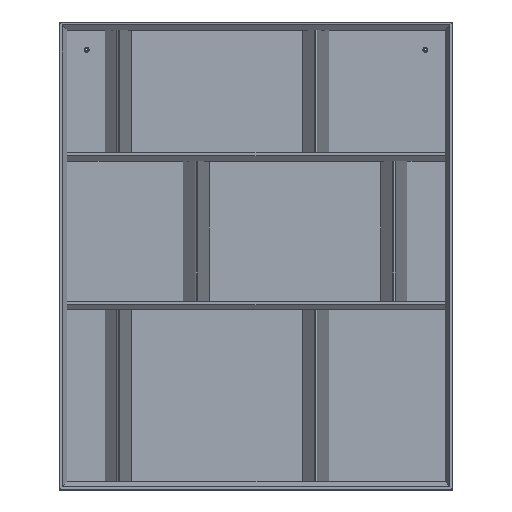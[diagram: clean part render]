
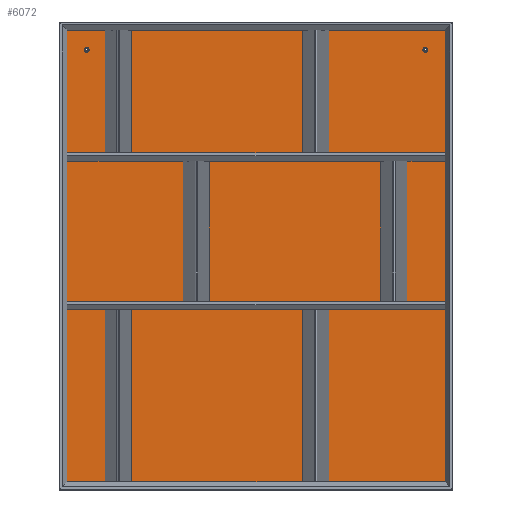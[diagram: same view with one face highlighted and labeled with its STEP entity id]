
A CAD part, top view. The second image highlights one B-rep face of the part: STEP entity #6072.
In plain terms, the highlighted planar face has unit normal (0, 0, 1).
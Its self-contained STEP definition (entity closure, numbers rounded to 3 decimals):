
#212 = CARTESIAN_POINT ( 'NONE',  ( 1302.107, 934., -161. ) ) ;
#268 = CARTESIAN_POINT ( 'NONE',  ( 349., 894., -161. ) ) ;
#320 = CARTESIAN_POINT ( 'NONE',  ( 384., 934., -161. ) ) ;
#330 = VERTEX_POINT ( 'NONE', #3189 ) ;
#423 = VECTOR ( 'NONE', #1807, 1000. ) ;
#448 = EDGE_CURVE ( 'NONE', #8353, #330, #1432, .T. ) ;
#474 = AXIS2_PLACEMENT_3D ( 'NONE', #6577, #989, #6534 ) ;
#858 = VECTOR ( 'NONE', #4381, 1000. ) ;
#900 = ORIENTED_EDGE ( 'NONE', *, *, #6017, .T. ) ;
#989 = DIRECTION ( 'NONE',  ( 0., 0., 1. ) ) ;
#1380 = DIRECTION ( 'NONE',  ( 0., -1., 0. ) ) ;
#1432 = LINE ( 'NONE', #5584, #6056 ) ;
#1516 = CIRCLE ( 'NONE', #474, 5. ) ;
#1528 = CIRCLE ( 'NONE', #2707, 5. ) ;
#1605 = DIRECTION ( 'NONE',  ( -1., 0., 0. ) ) ;
#1751 = CIRCLE ( 'NONE', #4860, 5. ) ;
#1807 = DIRECTION ( 'NONE',  ( -1., 0., 0. ) ) ;
#2612 = EDGE_CURVE ( 'NONE', #8389, #8681, #1528, .T. ) ;
#2707 = AXIS2_PLACEMENT_3D ( 'NONE', #5228, #3107, #4590 ) ;
#2789 = AXIS2_PLACEMENT_3D ( 'NONE', #212, #5114, #1605 ) ;
#2849 = CARTESIAN_POINT ( 'NONE',  ( -344., 894., -161. ) ) ;
#3107 = DIRECTION ( 'NONE',  ( 0., 0., 1. ) ) ;
#3189 = CARTESIAN_POINT ( 'NONE',  ( -384., 16., -161. ) ) ;
#3219 = VECTOR ( 'NONE', #6552, 1000. ) ;
#3377 = CARTESIAN_POINT ( 'NONE',  ( 1302.107, 16., -161. ) ) ;
#3577 = EDGE_CURVE ( 'NONE', #6710, #4548, #8008, .T. ) ;
#3705 = EDGE_CURVE ( 'NONE', #8681, #8389, #1516, .T. ) ;
#3729 = FACE_OUTER_BOUND ( 'NONE', #3753, .T. ) ;
#3753 = EDGE_LOOP ( 'NONE', ( #900, #5218, #4969, #8840 ) ) ;
#4286 = DIRECTION ( 'NONE',  ( 0., 0., 1. ) ) ;
#4360 = CARTESIAN_POINT ( 'NONE',  ( -349., 894., -161. ) ) ;
#4381 = DIRECTION ( 'NONE',  ( -1., 0., 0. ) ) ;
#4548 = VERTEX_POINT ( 'NONE', #4360 ) ;
#4590 = DIRECTION ( 'NONE',  ( 1., 0., 0. ) ) ;
#4860 = AXIS2_PLACEMENT_3D ( 'NONE', #5701, #6354, #8728 ) ;
#4911 = AXIS2_PLACEMENT_3D ( 'NONE', #2849, #4286, #8478 ) ;
#4969 = ORIENTED_EDGE ( 'NONE', *, *, #6582, .F. ) ;
#5064 = ORIENTED_EDGE ( 'NONE', *, *, #6392, .F. ) ;
#5114 = DIRECTION ( 'NONE',  ( 0., 0., -1. ) ) ;
#5218 = ORIENTED_EDGE ( 'NONE', *, *, #448, .T. ) ;
#5228 = CARTESIAN_POINT ( 'NONE',  ( 344., 894., -161. ) ) ;
#5495 = LINE ( 'NONE', #3377, #423 ) ;
#5537 = EDGE_CURVE ( 'NONE', #5574, #6476, #7106, .T. ) ;
#5574 = VERTEX_POINT ( 'NONE', #7849 ) ;
#5584 = CARTESIAN_POINT ( 'NONE',  ( -384., 934., -161. ) ) ;
#5701 = CARTESIAN_POINT ( 'NONE',  ( -344., 894., -161. ) ) ;
#5716 = ORIENTED_EDGE ( 'NONE', *, *, #3705, .F. ) ;
#5753 = FACE_BOUND ( 'NONE', #6100, .T. ) ;
#5766 = CARTESIAN_POINT ( 'NONE',  ( 384., 934., -161. ) ) ;
#5938 = CARTESIAN_POINT ( 'NONE',  ( 339., 894., -161. ) ) ;
#6017 = EDGE_CURVE ( 'NONE', #6476, #8353, #7231, .T. ) ;
#6056 = VECTOR ( 'NONE', #1380, 1000. ) ;
#6072 = ADVANCED_FACE ( 'NONE', ( #3729, #6454, #5753 ), #7280, .F. ) ;
#6100 = EDGE_LOOP ( 'NONE', ( #7040, #5064 ) ) ;
#6337 = ORIENTED_EDGE ( 'NONE', *, *, #2612, .F. ) ;
#6354 = DIRECTION ( 'NONE',  ( 0., 0., 1. ) ) ;
#6376 = CARTESIAN_POINT ( 'NONE',  ( -339., 894., -161. ) ) ;
#6392 = EDGE_CURVE ( 'NONE', #4548, #6710, #1751, .T. ) ;
#6454 = FACE_BOUND ( 'NONE', #7984, .T. ) ;
#6476 = VERTEX_POINT ( 'NONE', #320 ) ;
#6534 = DIRECTION ( 'NONE',  ( 1., 0., 0. ) ) ;
#6552 = DIRECTION ( 'NONE',  ( 0., 1., 0. ) ) ;
#6577 = CARTESIAN_POINT ( 'NONE',  ( 344., 894., -161. ) ) ;
#6582 = EDGE_CURVE ( 'NONE', #5574, #330, #5495, .T. ) ;
#6585 = CARTESIAN_POINT ( 'NONE',  ( 1302.107, 934., -161. ) ) ;
#6710 = VERTEX_POINT ( 'NONE', #6376 ) ;
#7040 = ORIENTED_EDGE ( 'NONE', *, *, #3577, .F. ) ;
#7106 = LINE ( 'NONE', #5766, #3219 ) ;
#7231 = LINE ( 'NONE', #6585, #858 ) ;
#7280 = PLANE ( 'NONE',  #2789 ) ;
#7849 = CARTESIAN_POINT ( 'NONE',  ( 384., 16., -161. ) ) ;
#7984 = EDGE_LOOP ( 'NONE', ( #6337, #5716 ) ) ;
#8008 = CIRCLE ( 'NONE', #4911, 5. ) ;
#8081 = CARTESIAN_POINT ( 'NONE',  ( -384., 934., -161. ) ) ;
#8353 = VERTEX_POINT ( 'NONE', #8081 ) ;
#8389 = VERTEX_POINT ( 'NONE', #268 ) ;
#8478 = DIRECTION ( 'NONE',  ( 1., 0., 0. ) ) ;
#8681 = VERTEX_POINT ( 'NONE', #5938 ) ;
#8728 = DIRECTION ( 'NONE',  ( 1., 0., 0. ) ) ;
#8840 = ORIENTED_EDGE ( 'NONE', *, *, #5537, .T. ) ;
